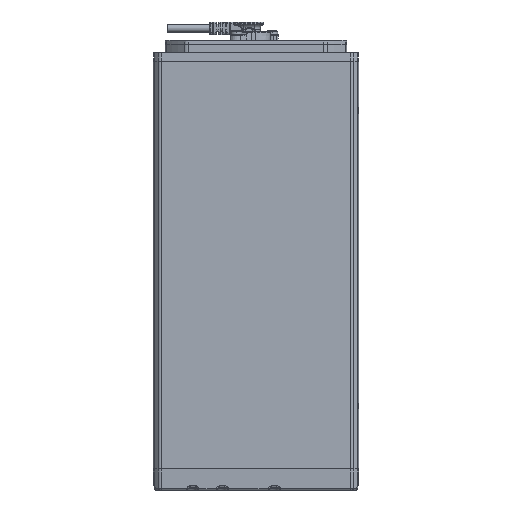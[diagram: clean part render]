
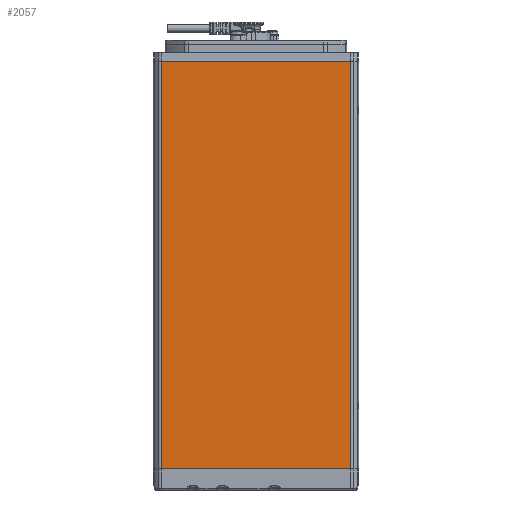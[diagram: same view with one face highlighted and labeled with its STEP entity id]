
A CAD part, left-side view. The second image highlights one B-rep face of the part: STEP entity #2057.
In plain terms, the highlighted planar face has unit normal (-1, 0, 0).
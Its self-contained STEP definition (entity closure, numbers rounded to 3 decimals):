
#72=DIRECTION('',(0.,1.,0.));
#73=VECTOR('',#72,290.);
#74=CARTESIAN_POINT('',(-73.,15.,67.585));
#75=LINE('',#74,#73);
#185=DIRECTION('',(0.,0.,-1.));
#186=VECTOR('',#185,135.17);
#187=CARTESIAN_POINT('',(-73.,305.,67.585));
#188=LINE('',#187,#186);
#336=DIRECTION('',(0.,0.,-1.));
#337=VECTOR('',#336,135.17);
#338=CARTESIAN_POINT('',(-73.,15.,67.585));
#339=LINE('',#338,#337);
#344=DIRECTION('',(0.,-1.,0.));
#345=VECTOR('',#344,290.);
#346=CARTESIAN_POINT('',(-73.,305.,-67.585));
#347=LINE('',#346,#345);
#1707=CARTESIAN_POINT('',(-73.,305.,67.585));
#1709=VERTEX_POINT('',#1707);
#1710=CARTESIAN_POINT('',(-73.,305.,-67.585));
#1711=VERTEX_POINT('',#1710);
#1834=CARTESIAN_POINT('',(-73.,15.,67.585));
#1836=VERTEX_POINT('',#1834);
#1864=CARTESIAN_POINT('',(-73.,15.,-67.585));
#1865=VERTEX_POINT('',#1864);
#2045=CARTESIAN_POINT('',(-73.,14.,-68.792));
#2046=DIRECTION('',(-1.,0.,0.));
#2047=DIRECTION('',(0.,0.,1.));
#2048=AXIS2_PLACEMENT_3D('',#2045,#2046,#2047);
#2049=PLANE('',#2048);
#2050=ORIENTED_EDGE('',*,*,#1873,.F.);
#2051=ORIENTED_EDGE('',*,*,#1916,.T.);
#2053=ORIENTED_EDGE('',*,*,#2052,.F.);
#2054=ORIENTED_EDGE('',*,*,#1965,.F.);
#2055=EDGE_LOOP('',(#2050,#2051,#2053,#2054));
#2056=FACE_OUTER_BOUND('',#2055,.F.);
#1873=EDGE_CURVE('',#1836,#1709,#75,.T.);
#1916=EDGE_CURVE('',#1836,#1865,#339,.T.);
#1965=EDGE_CURVE('',#1709,#1711,#188,.T.);
#2052=EDGE_CURVE('',#1711,#1865,#347,.T.);
#2057=ADVANCED_FACE('',(#2056),#2049,.T.);
